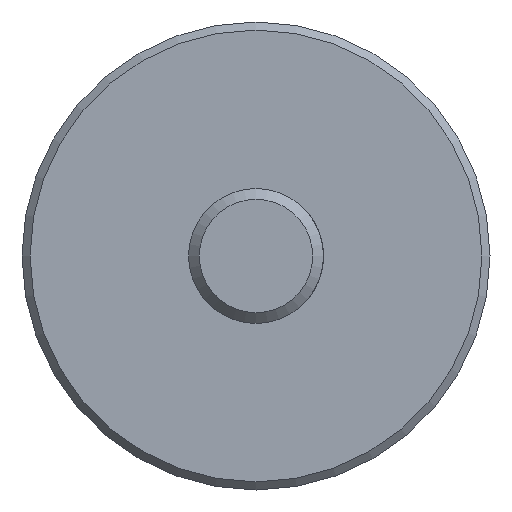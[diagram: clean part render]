
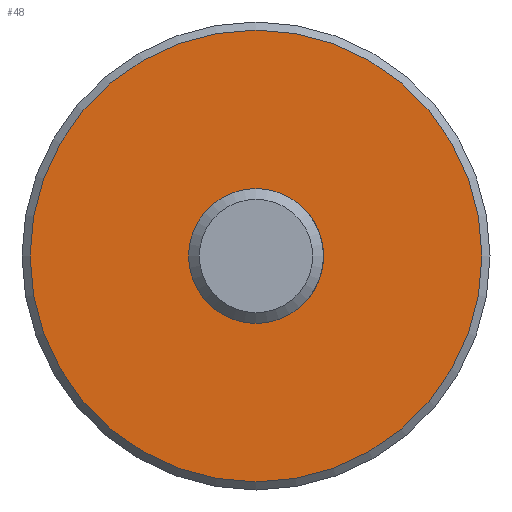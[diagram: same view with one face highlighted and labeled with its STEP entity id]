
A CAD part, front view. The second image highlights one B-rep face of the part: STEP entity #48.
In plain terms, the highlighted planar face has unit normal (0, -1, 0).
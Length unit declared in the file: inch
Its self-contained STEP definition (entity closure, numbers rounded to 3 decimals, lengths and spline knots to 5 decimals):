
#25 = EDGE_LOOP ( 'NONE', ( #134 ) ) ;
#35 = FACE_OUTER_BOUND ( 'NONE', #517, .T. ) ;
#38 = DIRECTION ( 'NONE',  ( 0., 0., 1. ) ) ;
#39 = DIRECTION ( 'NONE',  ( 0., 1., 0. ) ) ;
#48 = ADVANCED_FACE ( 'NONE', ( #35, #83 ), #215, .F. ) ;
#66 = CARTESIAN_POINT ( 'NONE',  ( 0., 3.35, 1.255 ) ) ;
#83 = FACE_BOUND ( 'NONE', #25, .T. ) ;
#105 = CIRCLE ( 'NONE', #285, 0.375 ) ;
#123 = CARTESIAN_POINT ( 'NONE',  ( 0., 3.35, 0. ) ) ;
#127 = DIRECTION ( 'NONE',  ( 0., 1., 0. ) ) ;
#134 = ORIENTED_EDGE ( 'NONE', *, *, #311, .T. ) ;
#215 = PLANE ( 'NONE',  #324 ) ;
#268 = DIRECTION ( 'NONE',  ( 0., 1., 0. ) ) ;
#285 = AXIS2_PLACEMENT_3D ( 'NONE', #572, #268, #315 ) ;
#311 = EDGE_CURVE ( 'NONE', #465, #465, #105, .T. ) ;
#315 = DIRECTION ( 'NONE',  ( 0., 0., 1. ) ) ;
#324 = AXIS2_PLACEMENT_3D ( 'NONE', #437, #39, #392 ) ;
#354 = EDGE_CURVE ( 'NONE', #462, #462, #356, .T. ) ;
#356 = CIRCLE ( 'NONE', #404, 1.255 ) ;
#389 = ORIENTED_EDGE ( 'NONE', *, *, #354, .F. ) ;
#392 = DIRECTION ( 'NONE',  ( 0., 0., 1. ) ) ;
#404 = AXIS2_PLACEMENT_3D ( 'NONE', #123, #127, #38 ) ;
#437 = CARTESIAN_POINT ( 'NONE',  ( 0.375, 3.35, 0. ) ) ;
#462 = VERTEX_POINT ( 'NONE', #66 ) ;
#465 = VERTEX_POINT ( 'NONE', #511 ) ;
#511 = CARTESIAN_POINT ( 'NONE',  ( 0., 3.35, 0.375 ) ) ;
#517 = EDGE_LOOP ( 'NONE', ( #389 ) ) ;
#572 = CARTESIAN_POINT ( 'NONE',  ( 0., 3.35, 0. ) ) ;
